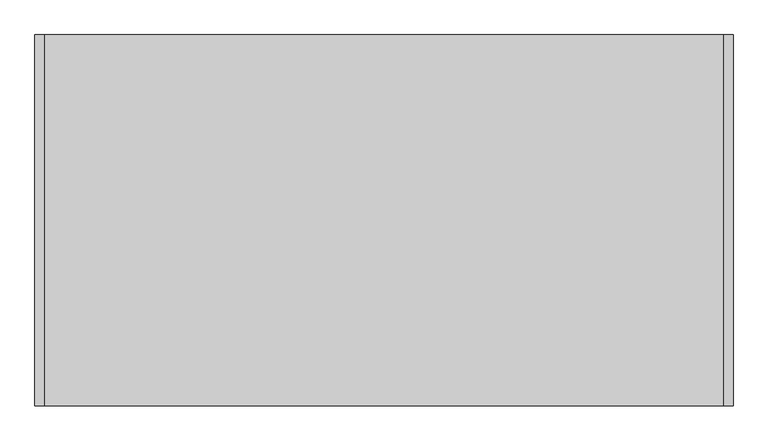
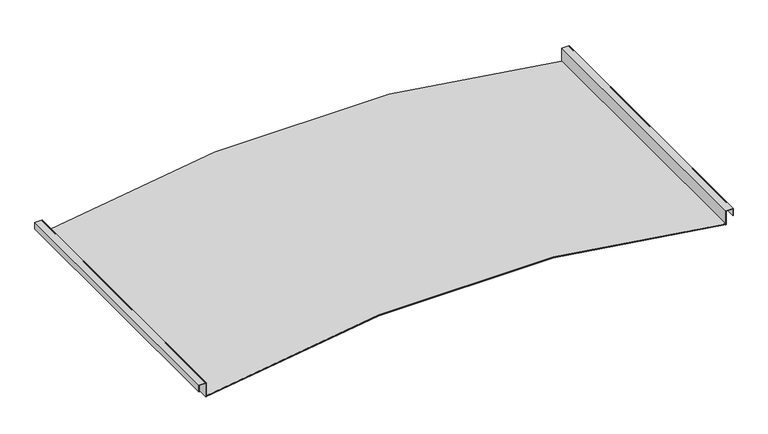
"""IFC4 building model written with IfcOpenShell, lengths in millimetres: proxy geometry, durlum_S5_DOMUS_panel : durlum_S5_DOMUS_panel."""

import ifcopenshell
import ifcopenshell.guid

model = None  # the IFC model being written
_history = None  # IfcOwnerHistory: only IFC2X3 demands one
_inside = {}  # id of a spatial element -> (the spatial element, [elements in it])
_under = {}  # id of a project, library or spatial element -> (it, [spatial elements below it])
_declared = {}  # id of a project -> (the project, [libraries it declares])
_typed = {}  # id of a type object -> (the type object, [elements of that type])
_made_of = {}  # id of a material, layer set ... -> (it, [elements and type objects made of it])


def new_model(schema):
    """Start an empty IFC model of exactly this schema.

    Asked for "IFC4X3", IfcOpenShell would pick the latest addendum, in which some entities
    have other attributes; the version numbers below select the first issue.
    IFC2X3 requires an IfcOwnerHistory on every rooted entity: one is made here for all.
    """
    global model, _history
    if schema == "IFC4X3":
        model = ifcopenshell.file(schema_version=(4, 3, 0, 0))
    else:
        model = ifcopenshell.file(schema=schema)
    _inside.clear()
    _under.clear()
    _declared.clear()
    _typed.clear()
    _made_of.clear()
    _history = None
    if model.schema == "IFC2X3":
        org = make("IfcOrganization", Name="unknown")
        user = make(
            "IfcPersonAndOrganization",
            ThePerson=make("IfcPerson", FamilyName="unknown"),
            TheOrganization=org,
        )
        app = make(
            "IfcApplication",
            ApplicationDeveloper=org,
            Version="unknown",
            ApplicationFullName="unknown",
            ApplicationIdentifier="unknown",
        )
        _history = make(
            "IfcOwnerHistory",
            OwningUser=user,
            OwningApplication=app,
            ChangeAction="ADDED",
            CreationDate=0,
        )
    return model


def make(cls, **values):
    """One entity of the class cls with the attributes given. An attribute that is None is left unset."""
    return model.create_entity(
        cls, **{name: value for name, value in values.items() if value is not None}
    )


def rooted(cls, **values):
    """An entity with a GlobalId (a new one), such as an element, a storey or a relation."""
    return make(cls, GlobalId=ifcopenshell.guid.new(), OwnerHistory=_history, **values)


def si_unit(unit_type, name, prefix=None):
    """IfcSIUnit, for example si_unit("LENGTHUNIT", "METRE", prefix="MILLI")."""
    return make("IfcSIUnit", UnitType=unit_type, Prefix=prefix, Name=name)


def assignment(units):
    """IfcUnitAssignment: the units of a project."""
    return None if units is None else make("IfcUnitAssignment", Units=units)


def point(xyz):
    """IfcCartesianPoint."""
    return None if xyz is None else make("IfcCartesianPoint", Coordinates=xyz)


def direction(xyz):
    """IfcDirection."""
    return None if xyz is None else make("IfcDirection", DirectionRatios=xyz)


def frame(location, z_axis=None, x_axis=None):
    """IfcAxis2Placement3D, a coordinate frame: its origin and axes. An axis left out is left unset."""
    return make(
        "IfcAxis2Placement3D",
        Location=point(location),
        Axis=direction(z_axis),
        RefDirection=direction(x_axis),
    )


def frame_2d(location, x_axis=None):
    """IfcAxis2Placement2D, a coordinate frame in the plane: its origin and x axis."""
    return make(
        "IfcAxis2Placement2D", Location=point(location), RefDirection=direction(x_axis)
    )


def origin():
    """The frame at (0, 0, 0) with its axes left unset."""
    return frame((0.0, 0.0, 0.0))


def place(relative_to, where):
    """IfcLocalPlacement: puts the frame where relative to a parent placement (None: the world)."""
    return make(
        "IfcLocalPlacement", PlacementRelTo=relative_to, RelativePlacement=where
    )


def context(
    kind, dimensions, precision=None, world=None, true_north=None, identifier=None
):
    """IfcGeometricRepresentationContext, for example the 3D "Model" context."""
    return make(
        "IfcGeometricRepresentationContext",
        ContextIdentifier=identifier,
        ContextType=kind,
        CoordinateSpaceDimension=dimensions,
        Precision=precision,
        WorldCoordinateSystem=world,
        TrueNorth=true_north,
    )


def project(units=None, contexts=None):
    """IfcProject with its units and contexts."""
    return rooted(
        "IfcProject",
        Name="project",
        RepresentationContexts=contexts,
        UnitsInContext=assignment(units),
    )


def spatial(cls, under=None, at=None, **own):
    """A site, building, storey or space (cls), placed at a placement, below another one or the project."""
    s = rooted(cls, ObjectPlacement=at, **own)
    if under is not None:
        _under.setdefault(under.id(), (under, []))[1].append(s)
    return s


def polyline(points):
    """IfcPolyline through the points."""
    return make("IfcPolyline", Points=[point(p) for p in points])


def circle_curve(where, radius):
    """IfcCircle in the frame where."""
    return make("IfcCircle", Position=where, Radius=radius)


def trimmed(basis, trim1, trim2, sense, master):
    """IfcTrimmedCurve: the piece of a basis curve between two trims."""
    return make(
        "IfcTrimmedCurve",
        BasisCurve=basis,
        Trim1=trim1,
        Trim2=trim2,
        SenseAgreement=sense,
        MasterRepresentation=master,
    )


def segment(curve, same_sense, transition):
    """IfcCompositeCurveSegment."""
    return make(
        "IfcCompositeCurveSegment",
        Transition=transition,
        SameSense=same_sense,
        ParentCurve=curve,
    )


def composite_curve(segments, self_intersect=None):
    """IfcCompositeCurve: segments joined end to end."""
    return make("IfcCompositeCurve", Segments=segments, SelfIntersect=self_intersect)


def outline(outer, holes=None, kind="AREA"):
    """IfcArbitraryClosedProfileDef: a profile drawn as a closed curve; with holes, ...WithVoids."""
    if holes is None:
        return make("IfcArbitraryClosedProfileDef", ProfileType=kind, OuterCurve=outer)
    return make(
        "IfcArbitraryProfileDefWithVoids",
        ProfileType=kind,
        OuterCurve=outer,
        InnerCurves=holes,
    )


def extrude(swept, where, along, depth):
    """IfcExtrudedAreaSolid: the profile swept, set in the frame where, extruded along a direction by depth."""
    return make(
        "IfcExtrudedAreaSolid",
        SweptArea=swept,
        Position=where,
        ExtrudedDirection=direction(along),
        Depth=depth,
    )


def shape(context_of_items, identifier, shape_type, items):
    """IfcShapeRepresentation: the items that make up one representation, for example the "Body"."""
    return make(
        "IfcShapeRepresentation",
        ContextOfItems=context_of_items,
        RepresentationIdentifier=identifier,
        RepresentationType=shape_type,
        Items=items,
    )


def source(mapping_origin, context_of_items, identifier, shape_type, items):
    """IfcRepresentationMap: a shape defined once, which mapped items show again and again."""
    return make(
        "IfcRepresentationMap",
        MappingOrigin=mapping_origin,
        MappedRepresentation=shape(context_of_items, identifier, shape_type, items),
    )


def transform(
    local_origin,
    x_axis=None,
    y_axis=None,
    z_axis=None,
    scale=None,
    scale2=None,
    scale3=None,
    uniform=True,
):
    """IfcCartesianTransformationOperator3D, or its non-uniform kind. x_axis, y_axis, z_axis: its Axis1, 2, 3."""
    if uniform:
        return make(
            "IfcCartesianTransformationOperator3D",
            Axis1=direction(x_axis),
            Axis2=direction(y_axis),
            LocalOrigin=point(local_origin),
            Scale=scale,
            Axis3=direction(z_axis),
        )
    return make(
        "IfcCartesianTransformationOperator3DnonUniform",
        Axis1=direction(x_axis),
        Axis2=direction(y_axis),
        LocalOrigin=point(local_origin),
        Scale=scale,
        Axis3=direction(z_axis),
        Scale2=scale2,
        Scale3=scale3,
    )


def mapped(mapping_source, mapping_target):
    """IfcMappedItem: shows the shape of a source again, moved by a transform."""
    return make(
        "IfcMappedItem", MappingSource=mapping_source, MappingTarget=mapping_target
    )


def made_of(thing, what):
    """Note that an element or type object is made of a material, layer set ...; save() writes the relation."""
    if what is not None:
        _made_of.setdefault(what.id(), (what, []))[1].append(thing)
    return thing


def element(
    cls,
    number,
    at=None,
    inside=None,
    cuts=None,
    type_object=None,
    material=None,
    context=None,
    identifier="Body",
    shape_type=None,
    held_by="IfcProductDefinitionShape",
    body=None,
    shapes=None,
    **own,
):
    """One element of the class cls, such as IfcWall. Its Tag is "e" and its number.

    at: its placement. inside: the storey or other place that contains it. cuts: it is an
    opening in that element (IfcRelVoidsElement). A single representation is given by context,
    identifier, shape_type and body (its items); several are given by shapes. held_by: the class
    of the entity that holds the representations. save() writes the other relations.
    """
    e = rooted(cls, Tag="e%d" % number, ObjectPlacement=at, **own)
    if body is not None:
        shapes = [shape(context, identifier, shape_type, body)]
    if shapes is not None:
        e.Representation = make(held_by, Representations=shapes)
    if inside is not None:
        _inside.setdefault(inside.id(), (inside, []))[1].append(e)
    if cuts is not None:
        rooted(
            "IfcRelVoidsElement", RelatingBuildingElement=cuts, RelatedOpeningElement=e
        )
    if type_object is not None:
        _typed.setdefault(type_object.id(), (type_object, []))[1].append(e)
    return made_of(e, material)


def aggregate(whole, parts):
    """IfcRelAggregates: a whole, such as a stair, and the parts it consists of."""
    return rooted("IfcRelAggregates", RelatingObject=whole, RelatedObjects=parts)


def save(model, path):
    """Write the relations noted so far, then the file.

    IfcRelAggregates (storeys below a building ...), IfcRelContainedInSpatialStructure (elements
    in a storey), IfcRelDefinesByType, IfcRelAssociatesMaterial and IfcRelDeclares: one each for
    every whole, place, type object, material and project.
    """
    for whole, parts in _under.values():
        aggregate(whole, parts)
    for where, things in _inside.values():
        rooted(
            "IfcRelContainedInSpatialStructure",
            RelatedElements=things,
            RelatingStructure=where,
        )
    for kind, things in _typed.values():
        rooted("IfcRelDefinesByType", RelatedObjects=things, RelatingType=kind)
    for what, things in _made_of.values():
        rooted("IfcRelAssociatesMaterial", RelatedObjects=things, RelatingMaterial=what)
    for by, libraries in _declared.values():
        rooted("IfcRelDeclares", RelatingContext=by, RelatedDefinitions=libraries)
    model.write(path)


def generic_models_ebad526c(model_context):
    return source(origin(), model_context, "Body", "SweptSolid", [
        extrude(outline(composite_curve([segment(trimmed(circle_curve(frame_2d((-2486.2520833, 0.0)), 2547.2520833), [point((1.2448365, -548.5))], [point((1.2448365, 548.5))], True, "CARTESIAN"), True, "CONTINUOUS"), segment(polyline([(1.2448365, 548.5), (2.2688489, 548.5)]), True, "CONTINUOUS"), segment(trimmed(circle_curve(frame_2d((-2486.2520833, 0.0)), 2548.2520833), [point((2.2688489, 548.5))], [point((2.2688489, -548.5))], False, "CARTESIAN"), True, "CONTINUOUS"), segment(polyline([(2.2688489, -548.5), (1.2448365, -548.5)]), True, "CONTINUOUS")], self_intersect=False)), frame((0.0, -299.75, 0.0), z_axis=(0.0, 1.0, 0.0), x_axis=(0.0, 0.0, 1.0)), (0.0, 0.0, 1.0), 599.5),
        extrude(outline(polyline([(30.0, -549.5), (0.0, -549.5), (0.0, -548.5), (31.0, -548.5), (31.0, -563.5), (16.0, -563.5), (16.0, -562.5), (30.0, -562.5), (30.0, -549.5)])), frame((0.0, -299.75, 0.0), z_axis=(0.0, 1.0, 0.0), x_axis=(0.0, 0.0, 1.0)), (0.0, 0.0, 1.0), 599.5),
        extrude(outline(polyline([(30.0, 549.5), (30.0, 562.5), (16.0, 562.5), (16.0, 563.5), (31.0, 563.5), (31.0, 548.5), (0.0, 548.5), (0.0, 549.5), (30.0, 549.5)])), frame((0.0, -299.75, 0.0), z_axis=(0.0, 1.0, 0.0), x_axis=(0.0, 0.0, 1.0)), (0.0, 0.0, 1.0), 599.5),
        extrude(outline(composite_curve([segment(polyline([(1.0241229, -549.5), (0.0, -549.5)]), True, "CONTINUOUS"), segment(trimmed(circle_curve(frame_2d((-2486.2520833, 0.0)), 2546.2520833), [point((0.0, -549.5))], [point((0.0, 549.5))], True, "CARTESIAN"), True, "CONTINUOUS"), segment(polyline([(0.0, 549.5), (1.0241229, 549.5)]), True, "CONTINUOUS"), segment(trimmed(circle_curve(frame_2d((-2486.2520833, 0.0)), 2547.2520833), [point((1.0241229, 549.5))], [point((1.0241229, -549.5))], False, "CARTESIAN"), True, "CONTINUOUS")], self_intersect=False)), frame((0.0, -299.75, 0.0), z_axis=(0.0, 1.0, 0.0), x_axis=(0.0, 0.0, 1.0)), (0.0, 0.0, 1.0), 599.5),
    ])


if __name__ == "__main__":
    model = new_model("IFC4")
    model_context = context("Model", 3, world=origin())
    ifc_project = project(units=[si_unit("LENGTHUNIT", "METRE", prefix="MILLI")], contexts=[model_context])
    site = spatial("IfcSite", under=ifc_project)
    building = spatial("IfcBuilding", under=site)
    placement = place(None, origin())
    generic_models_shape = generic_models_ebad526c(model_context)
    element("IfcBuildingElementProxy", 1, Name="durlum_S5_DOMUS_panel : durlum_S5_DOMUS_panel", ObjectType="durlum_S5_DOMUS_panel : durlum_S5_DOMUS_panel", at=placement, inside=building, context=model_context, shape_type="MappedRepresentation", body=[
        mapped(generic_models_shape, transform((0.0, 0.0, 0.0), x_axis=(1.0, 0.0, 0.0), y_axis=(0.0, 1.0, 0.0), z_axis=(0.0, 0.0, 1.0))),
    ])
    save(model, "model.ifc")
